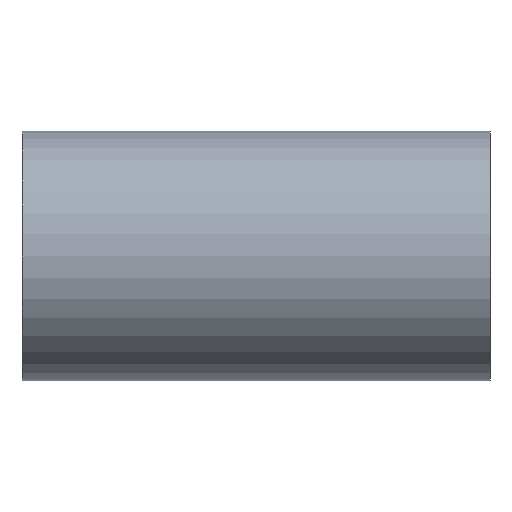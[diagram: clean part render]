
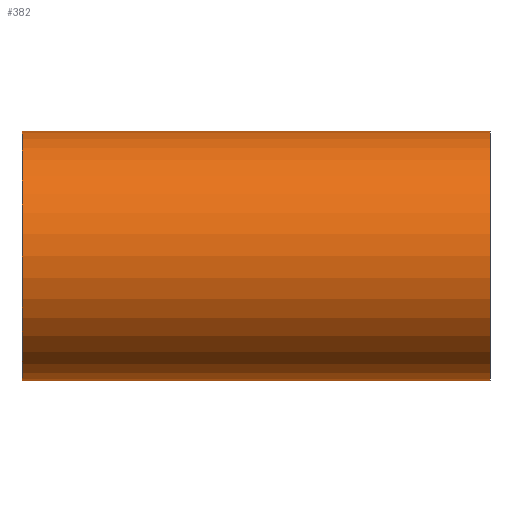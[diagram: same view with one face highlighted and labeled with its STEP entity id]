
A CAD part, front view. The second image highlights one B-rep face of the part: STEP entity #382.
In plain terms, the highlighted cylindrical face has radius 76.2 mm (diameter 152.4 mm), a partial arc.
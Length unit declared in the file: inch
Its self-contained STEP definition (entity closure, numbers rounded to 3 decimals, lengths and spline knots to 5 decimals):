
#24 = LINE ( 'NONE', #416, #191 ) ;
#58 = CIRCLE ( 'NONE', #253, 3. ) ;
#87 = CIRCLE ( 'NONE', #385, 3. ) ;
#92 = ORIENTED_EDGE ( 'NONE', *, *, #412, .T. ) ;
#95 = LINE ( 'NONE', #110, #615 ) ;
#110 = CARTESIAN_POINT ( 'NONE',  ( 5.625, 0., 3. ) ) ;
#114 = DIRECTION ( 'NONE',  ( 1., 0., 0. ) ) ;
#127 = CARTESIAN_POINT ( 'NONE',  ( 5.625, 0., -3. ) ) ;
#133 = VERTEX_POINT ( 'NONE', #127 ) ;
#161 = CARTESIAN_POINT ( 'NONE',  ( 5.625, 0., 3. ) ) ;
#164 = DIRECTION ( 'NONE',  ( 0., 0., 1. ) ) ;
#165 = CYLINDRICAL_SURFACE ( 'NONE', #420, 3. ) ;
#171 = CARTESIAN_POINT ( 'NONE',  ( -5.625, 0., 0. ) ) ;
#176 = CARTESIAN_POINT ( 'NONE',  ( -5.625, 0., -3. ) ) ;
#191 = VECTOR ( 'NONE', #368, 39.37008 ) ;
#224 = EDGE_CURVE ( 'NONE', #133, #514, #24, .T. ) ;
#228 = DIRECTION ( 'NONE',  ( 0., 0., -1. ) ) ;
#253 = AXIS2_PLACEMENT_3D ( 'NONE', #427, #114, #484 ) ;
#292 = EDGE_CURVE ( 'NONE', #332, #672, #95, .T. ) ;
#332 = VERTEX_POINT ( 'NONE', #161 ) ;
#343 = EDGE_CURVE ( 'NONE', #332, #133, #58, .T. ) ;
#368 = DIRECTION ( 'NONE',  ( -1., 0., 0. ) ) ;
#382 = ADVANCED_FACE ( 'NONE', ( #419 ), #165, .T. ) ;
#385 = AXIS2_PLACEMENT_3D ( 'NONE', #171, #541, #228 ) ;
#401 = CARTESIAN_POINT ( 'NONE',  ( -5.625, 0., 3. ) ) ;
#412 = EDGE_CURVE ( 'NONE', #672, #514, #87, .T. ) ;
#416 = CARTESIAN_POINT ( 'NONE',  ( 5.625, 0., -3. ) ) ;
#419 = FACE_OUTER_BOUND ( 'NONE', #657, .T. ) ;
#420 = AXIS2_PLACEMENT_3D ( 'NONE', #644, #536, #164 ) ;
#427 = CARTESIAN_POINT ( 'NONE',  ( 5.625, 0., 0. ) ) ;
#436 = ORIENTED_EDGE ( 'NONE', *, *, #224, .F. ) ;
#441 = ORIENTED_EDGE ( 'NONE', *, *, #343, .F. ) ;
#480 = DIRECTION ( 'NONE',  ( -1., 0., 0. ) ) ;
#484 = DIRECTION ( 'NONE',  ( 0., 0., -1. ) ) ;
#514 = VERTEX_POINT ( 'NONE', #176 ) ;
#534 = ORIENTED_EDGE ( 'NONE', *, *, #292, .T. ) ;
#536 = DIRECTION ( 'NONE',  ( -1., 0., 0. ) ) ;
#541 = DIRECTION ( 'NONE',  ( 1., 0., 0. ) ) ;
#615 = VECTOR ( 'NONE', #480, 39.37008 ) ;
#644 = CARTESIAN_POINT ( 'NONE',  ( 5.625, 0., 0. ) ) ;
#657 = EDGE_LOOP ( 'NONE', ( #436, #441, #534, #92 ) ) ;
#672 = VERTEX_POINT ( 'NONE', #401 ) ;
